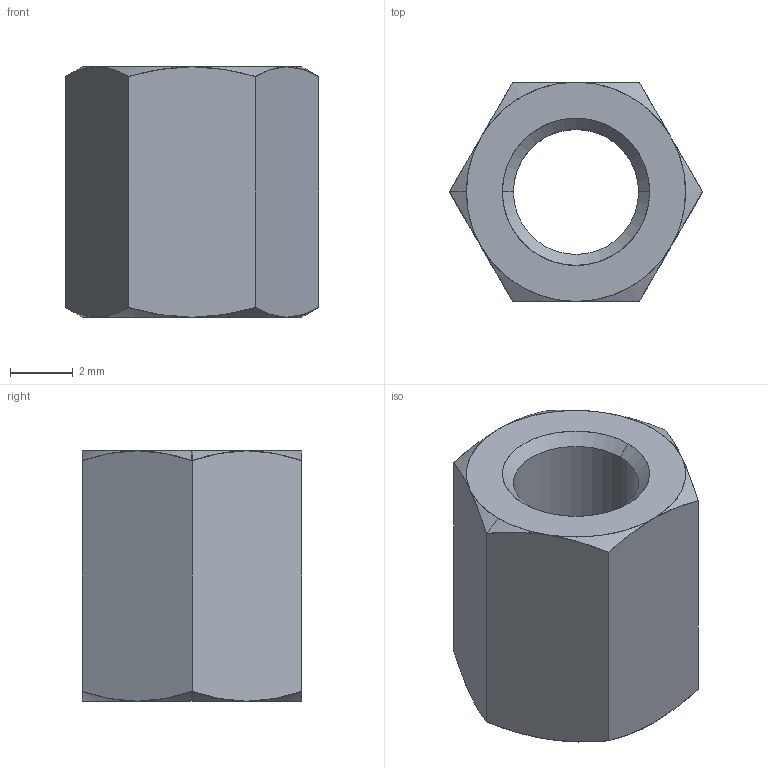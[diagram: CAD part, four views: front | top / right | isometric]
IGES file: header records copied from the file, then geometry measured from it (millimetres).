
Start section: SolidWorks IGES file using analytic representation for surfaces
Global section: file name: C:\Users\ianosborn\Desktop\N0503.NP_v2\N0503.NP_v2_20250227_IGES\N0503.040-008-NP.igs; native system: SolidWorks 2019; preprocessor: SolidWorks 2019; author: IanOsborn; date: 250227.144219; units: millimetre
Bounding box: 8.08 x 7 x 8 mm (x, y, z)
Surface area: 345.4 mm2 (no closed solid volume)
Topology: 0 solids, 0 shells, 28 faces, 286 edges, 286 vertices
Faces by surface type: revolution 20, bspline 8
